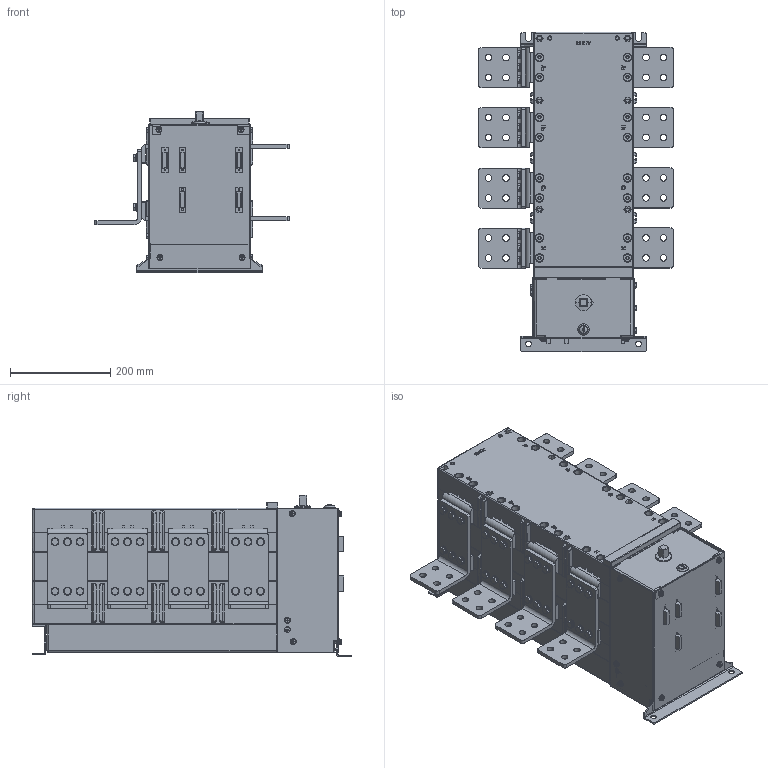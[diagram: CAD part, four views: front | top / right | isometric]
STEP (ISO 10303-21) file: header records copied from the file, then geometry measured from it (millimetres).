
FILE_DESCRIPTION((''),'2;1');
FILE_NAME('NH40-1600-4SZ20200928_ASM_ASM','2020-11-03T',('shift'),(''),'CREO PARAMETRIC BY PTC INC, 2014500','CREO PARAMETRIC BY PTC INC, 2014500','');
FILE_SCHEMA(('AUTOMOTIVE_DESIGN { 1 0 10303 214 1 1 1 1 }'));
Products named in the file (28): MSBR9_1_1_1_4_1_1; MSBR1_1_1_2_1_1; MSBR10_1_1_2_1_1; MSBR11_1_1_2_1_1; MSBR12_1_1_1_1_1; MSBR13_1_1_2_1_1; MSBR8_1_1_3_1_1; ADMI0FB0CDB70BN3_ASM_1_ASM_1_AS_ASM; 1000A_ASM_1_ASM_1_ASM_1_ASM_1_A_ASM; 1000A_ASM_ASM_1_ASM_1_ASM_1_ASM_ASM; JINGCHUTOU_3_1_1; JINGCHUTOU2_4_1_1; JIAOJIA_1_1_1; JIGOUJIAO1000_8_1_1; JIGOUZUISHANGMMIANBAN_3_1_1; CEBAN_1_1_1; CEBAN1_8_1_1; SHUCHUPAILIANJIELUOSI_1_1_1; JIEXIANDUANZI_3_1_1; SUO_1_1_1; JIGOUGUDINGLUOSI_1_1_1; HONGZHISHI_3_1_1; PRT0002_3_1_1; NH40-1000-4SZ_ASM_10_ASM_1_ASM__ASM; 1_1_2; NH40-1600-4SZ_ASM_ASM_1_ASM_1_ASM; NH40-1600-4SZ20200919_ASM_1_ASM; NH40-1600-4SZ20200928_ASM_ASM
Assembly tree (80 placements, depth 8):
  NH40-1600-4SZ20200928_ASM_ASM
    NH40-1600-4SZ20200919_ASM_1_ASM
      NH40-1600-4SZ_ASM_ASM_1_ASM_1_ASM
        NH40-1000-4SZ_ASM_10_ASM_1_ASM__ASM
          1000A_ASM_ASM_1_ASM_1_ASM_1_ASM_ASM
            1000A_ASM_1_ASM_1_ASM_1_ASM_1_A_ASM
              ADMI0FB0CDB70BN3_ASM_1_ASM_1_AS_ASM
                MSBR9_1_1_1_4_1_1
                MSBR1_1_1_2_1_1
                MSBR10_1_1_2_1_1
                MSBR11_1_1_2_1_1
                MSBR12_1_1_1_1_1
                MSBR13_1_1_2_1_1
                MSBR8_1_1_3_1_1
          JINGCHUTOU_3_1_1  x8
          JINGCHUTOU2_4_1_1  x8
          JIAOJIA_1_1_1
          JIGOUJIAO1000_8_1_1
          JIGOUZUISHANGMMIANBAN_3_1_1
          CEBAN_1_1_1
          CEBAN1_8_1_1
          SHUCHUPAILIANJIELUOSI_1_1_1  x24
          JIEXIANDUANZI_3_1_1  x5
          SUO_1_1_1
          JIGOUGUDINGLUOSI_1_1_1  x10
          HONGZHISHI_3_1_1
          PRT0002_3_1_1
        1_1_2  x4
Bounding box: 390 x 639.02 x 322.54 mm (x, y, z)
Volume: 29597853.7 mm3; surface area: 2775341.2 mm2
Topology: 74 solids, 96 shells, 4609 faces, 11540 edges, 7384 vertices
Faces by surface type: plane 2439, cylinder 1655, bspline 258, torus 90, cone 70, sphere 60, extrusion 37
Entity records: 136419 total; most frequent: CARTESIAN_POINT 39929, ORIENTED_EDGE 15760, DIRECTION 14599, EDGE_CURVE 7880, VECTOR 5185, LINE 5148, VERTEX_POINT 5004, AXIS2_PLACEMENT_3D 4707
